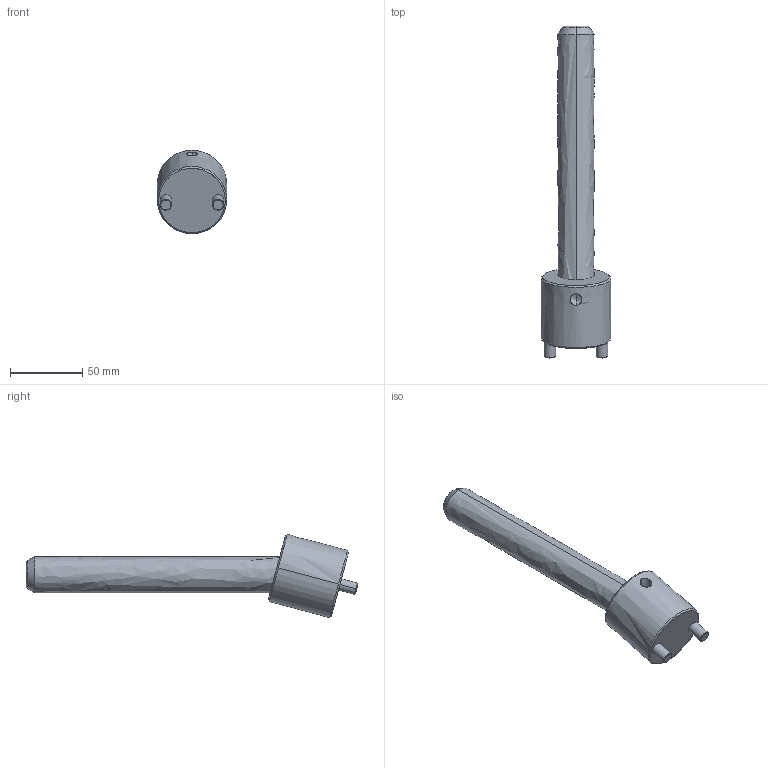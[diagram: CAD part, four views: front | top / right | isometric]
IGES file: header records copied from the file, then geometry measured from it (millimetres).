
Start section: START RECORD GO HERE.
Global section: file name: CI1525175.igs; native system: DASSAULT SYSTEMES CATIA V5 R20 - www.3ds.com; preprocessor: CATIA Version 5 Release 20 ; author: r.borello; organization: CFTORINO; date: 20190621.162042; units: millimetre
Bounding box: 48 x 229.26 x 57.49 mm (x, y, z)
Surface area: 31311.7 mm2 (no closed solid volume)
Topology: 0 solids, 0 shells, 39 faces, 162 edges, 160 vertices
Faces by surface type: revolution 32, plane 7
